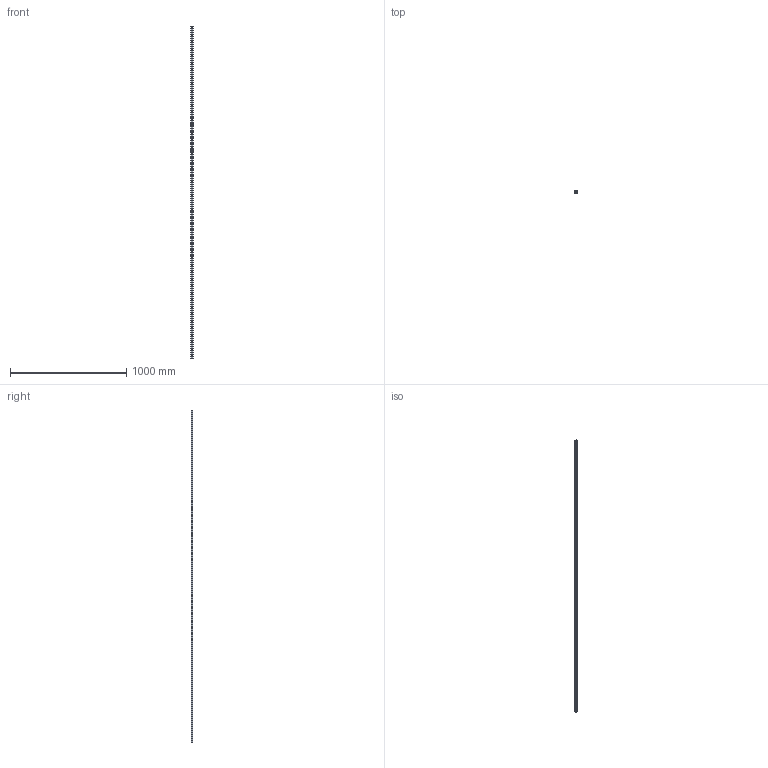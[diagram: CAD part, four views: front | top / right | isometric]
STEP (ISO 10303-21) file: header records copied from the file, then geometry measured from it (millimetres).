
FILE_DESCRIPTION (( 'STEP AP203' ), '1' );
FILE_NAME ('L1016.BL20-2860.step', '2019-06-12T11:54:41', ( '' ), ( '' ), 'SwSTEP 2.0', 'SolidWorks 2017', '' );
FILE_SCHEMA (( 'CONFIG_CONTROL_DESIGN' ));
Length unit declared in the file: millimetre
Products named in the file (1): L1016.BL20-2860
Bounding box: 20 x 16.3 x 2860 mm (x, y, z)
Volume: 794993 mm3; surface area: 230066 mm2
Topology: 1 solids, 1 shells, 266 faces, 648 edges, 432 vertices
Faces by surface type: cylinder 196, plane 70
Entity records: 8293 total; most frequent: DIRECTION 1574, CARTESIAN_POINT 1347, ORIENTED_EDGE 1296, AXIS2_PLACEMENT_3D 659, EDGE_CURVE 648, VERTEX_POINT 432, EDGE_LOOP 410, CIRCLE 392
